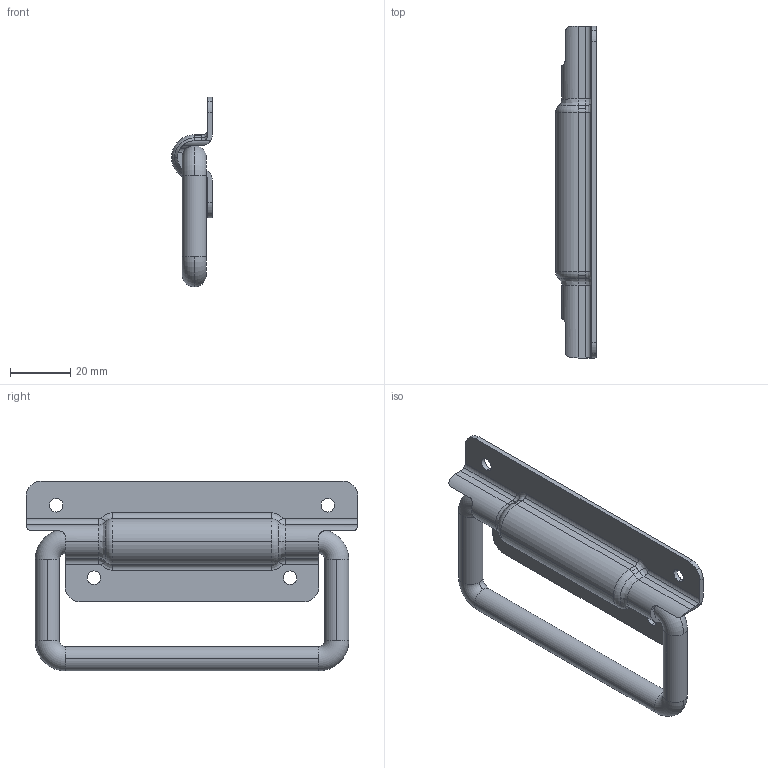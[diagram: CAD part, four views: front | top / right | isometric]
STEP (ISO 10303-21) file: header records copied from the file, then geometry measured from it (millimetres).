
FILE_DESCRIPTION((''),'2;1');
FILE_NAME('3510.stp','2016-07-27T13:03:01',(''),(''),'Mechanical Desktop 2006','Mechanical Desktop 2006',', , ');
FILE_SCHEMA(('AUTOMOTIVE_DESIGN { 1 2 10303 214 0 1 1 1 }'));
Length unit declared in the file: millimetre
Products named in the file (3): 3510; OBERTEIL KISTENG 1056; BUGEL 1056
Assembly tree (2 placements, depth 2):
  3510
    OBERTEIL KISTENG 1056
    BUGEL 1056
Bounding box: 13.5 x 110 x 62.87 mm (x, y, z)
Volume: 23600.2 mm3; surface area: 17210.9 mm2
Topology: 2 solids, 2 shells, 114 faces, 302 edges, 192 vertices
Faces by surface type: cylinder 70, plane 22, bspline 12, torus 10
Entity records: 4084 total; most frequent: CARTESIAN_POINT 1024, DIRECTION 656, ORIENTED_EDGE 604, EDGE_CURVE 302, AXIS2_PLACEMENT_3D 269, VERTEX_POINT 192, CIRCLE 164, EDGE_LOOP 122
